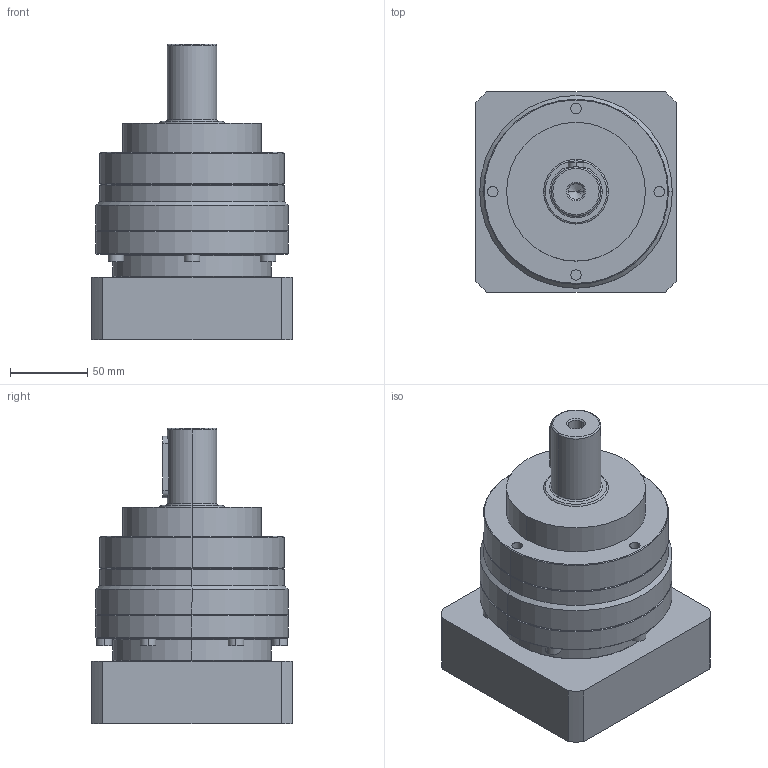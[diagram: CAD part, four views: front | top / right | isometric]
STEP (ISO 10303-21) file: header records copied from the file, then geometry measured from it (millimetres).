
FILE_DESCRIPTION (( 'STEP AP214' ), '1' );
FILE_NAME ('VRL-120-L1-S2-P1 24-110-145-M8.STEP', '2024-02-03T03:47:03', ( '微软用户' ), ( '微软中国' ), 'SwSTEP 2.0', 'SolidWorks 2018', '' );
FILE_SCHEMA (( 'AUTOMOTIVE_DESIGN' ));
Length unit declared in the file: millimetre
Products named in the file (1): VRL-120-L1-S2-P1 24-110-145-M8
Bounding box: 130 x 130 x 191.5 mm (x, y, z)
Volume: 1573517.6 mm3; surface area: 126028.7 mm2
Topology: 1 solids, 1 shells, 169 faces, 397 edges, 251 vertices
Faces by surface type: plane 82, cylinder 59, cone 20, torus 8
Entity records: 5021 total; most frequent: CARTESIAN_POINT 955, DIRECTION 897, ORIENTED_EDGE 790, EDGE_CURVE 395, AXIS2_PLACEMENT_3D 341, VERTEX_POINT 251, VECTOR 215, LINE 215
